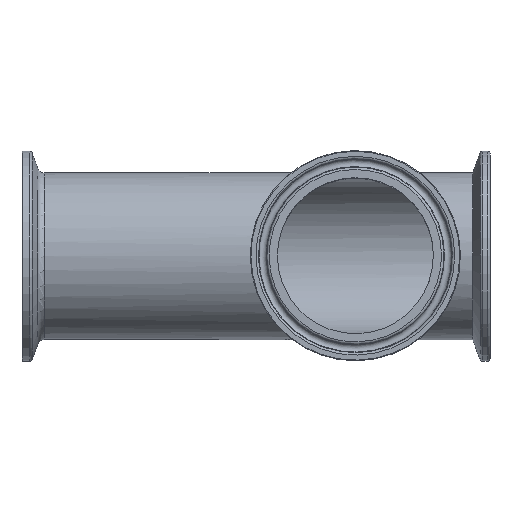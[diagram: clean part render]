
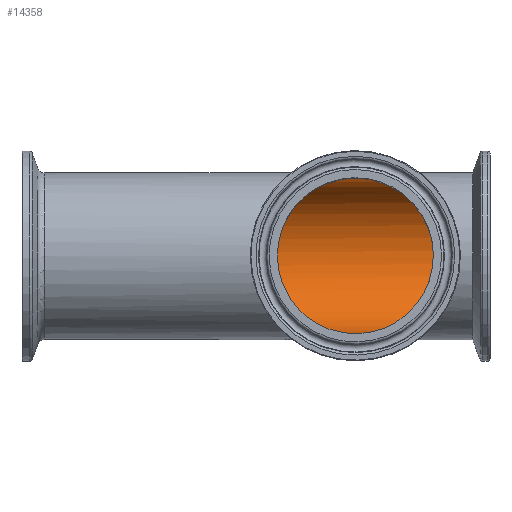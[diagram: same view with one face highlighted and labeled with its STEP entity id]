
A CAD part, top view. The second image highlights one B-rep face of the part: STEP entity #14358.
In plain terms, the highlighted cylindrical face has radius 23.75 mm (diameter 47.5 mm), a full revolution.
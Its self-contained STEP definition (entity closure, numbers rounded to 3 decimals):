
#2448=ELLIPSE('',#14991,33.588,23.75);
#2449=ELLIPSE('',#14992,33.588,23.75);
#2453=CYLINDRICAL_SURFACE('',#14996,23.75);
#2571=ORIENTED_EDGE('',*,*,#5589,.F.);
#2572=ORIENTED_EDGE('',*,*,#5586,.T.);
#2573=ORIENTED_EDGE('',*,*,#5587,.T.);
#2574=ORIENTED_EDGE('',*,*,#5590,.T.);
#5586=EDGE_CURVE('',#7098,#7099,#2448,.F.);
#5587=EDGE_CURVE('',#7099,#7098,#2449,.T.);
#5589=EDGE_CURVE('',#7101,#7101,#8133,.T.);
#5590=EDGE_CURVE('',#7102,#7102,#8134,.T.);
#7098=VERTEX_POINT('',#17821);
#7099=VERTEX_POINT('',#17822);
#7101=VERTEX_POINT('',#17828);
#7102=VERTEX_POINT('',#17831);
#8133=CIRCLE('',#14995,23.75);
#8134=CIRCLE('',#14997,23.75);
#8446=EDGE_LOOP('',(#2571));
#8447=EDGE_LOOP('',(#2572,#2573));
#8448=EDGE_LOOP('',(#2574));
#9216=FACE_BOUND('',#8446,.T.);
#9217=FACE_BOUND('',#8447,.T.);
#9218=FACE_BOUND('',#8448,.T.);
#14358=ADVANCED_FACE('',(#9216,#9217,#9218),#2453,.F.);
#14991=AXIS2_PLACEMENT_3D('',#17820,#15704,#15705);
#14992=AXIS2_PLACEMENT_3D('',#17823,#15706,#15707);
#14995=AXIS2_PLACEMENT_3D('',#17827,#15712,#15713);
#14996=AXIS2_PLACEMENT_3D('',#17829,#15714,#15715);
#14997=AXIS2_PLACEMENT_3D('',#17830,#15716,#15717);
#15704=DIRECTION('',(-0.707,0.,-0.707));
#15705=DIRECTION('',(-0.707,0.,0.707));
#15706=DIRECTION('',(-0.707,0.,0.707));
#15707=DIRECTION('',(-0.707,0.,-0.707));
#15712=DIRECTION('',(-1.,0.,0.));
#15713=DIRECTION('',(0.,0.,1.));
#15714=DIRECTION('',(-1.,0.,0.));
#15715=DIRECTION('',(0.,0.932,0.363));
#15716=DIRECTION('',(-1.,0.,0.));
#15717=DIRECTION('',(0.,0.932,0.363));
#17820=CARTESIAN_POINT('',(0.,0.,
0.));
#17821=CARTESIAN_POINT('',(0.,23.75,0.));
#17822=CARTESIAN_POINT('',(0.,-23.75,0.));
#17823=CARTESIAN_POINT('',(0.,0.,
0.));
#17827=CARTESIAN_POINT('',(41.,0.,0.));
#17828=CARTESIAN_POINT('',(41.,0.,23.75));
#17829=CARTESIAN_POINT('',(-90.65,0.,0.));
#17830=CARTESIAN_POINT('',(-101.5,0.,0.));
#17831=CARTESIAN_POINT('',(-101.5,22.129,8.623));
